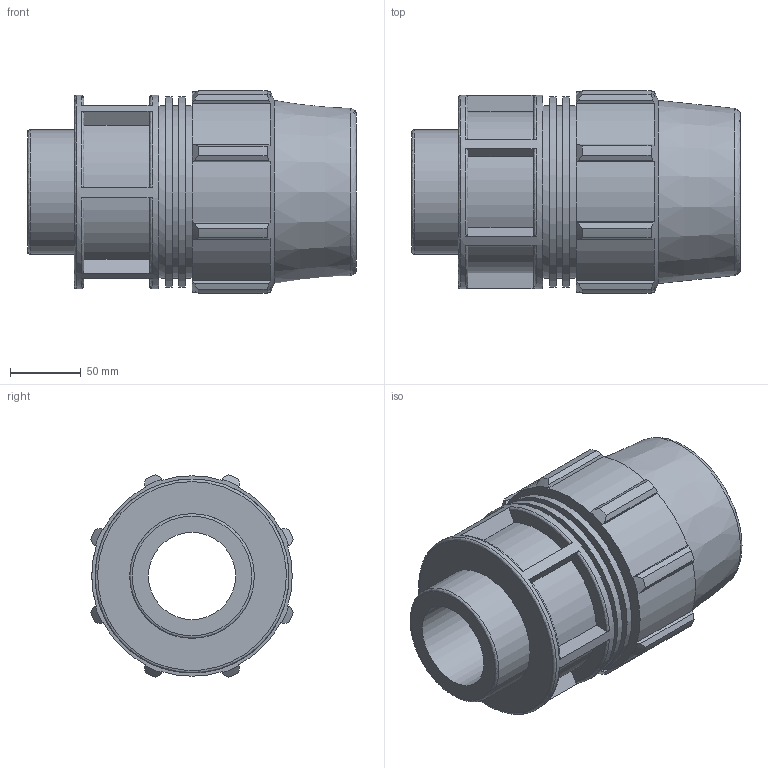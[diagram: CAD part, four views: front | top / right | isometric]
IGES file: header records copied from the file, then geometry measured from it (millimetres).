
Global section: file name: 870200090030_180200090030_840206090030.ipt; native system: Autodesk Inventor 2015; preprocessor: unknown; author: KIM; date: 20180325.201143; units: millimetre
Bounding box: 232 x 143.02 x 143.02 mm (x, y, z)
Volume: 1527013.6 mm3; surface area: 204797.2 mm2
Topology: 1 solids, 1 shells, 125 faces, 333 edges, 224 vertices
Faces by surface type: plane 67, cylinder 29, revolution 19, cone 10
Full cylindrical faces by diameter (mm): 87.884 x1, 121.6 x3, 134.064 x2, 136.8 x1
